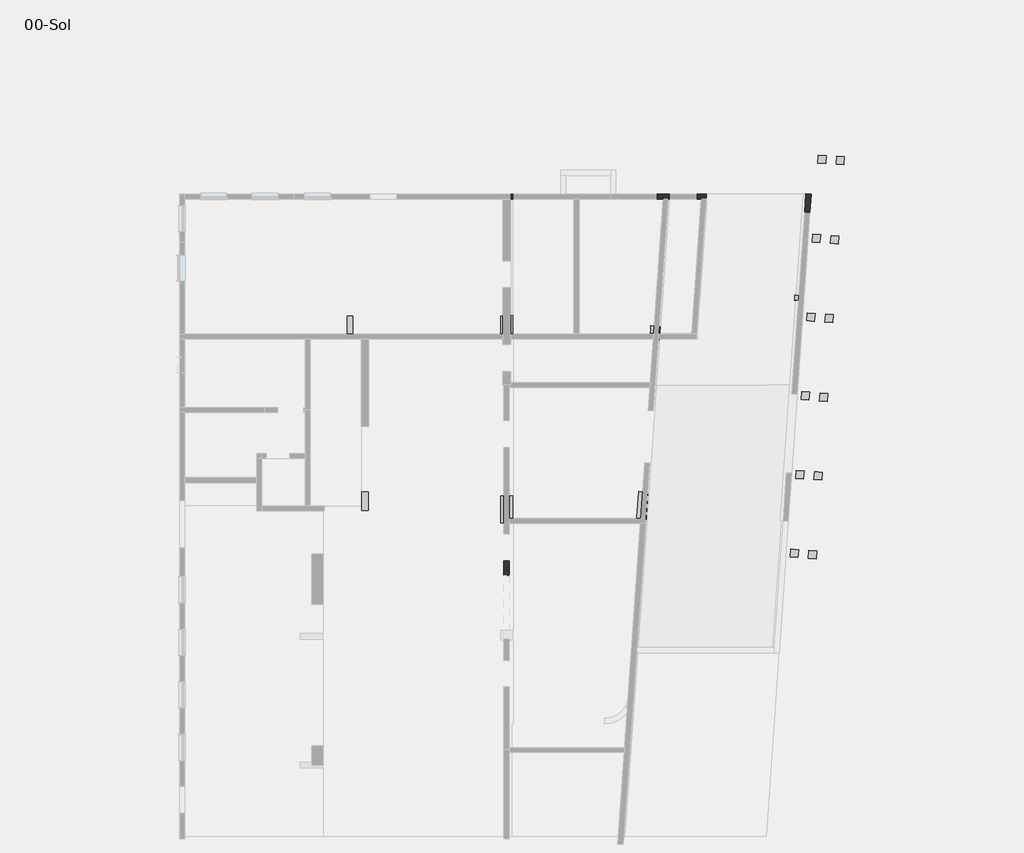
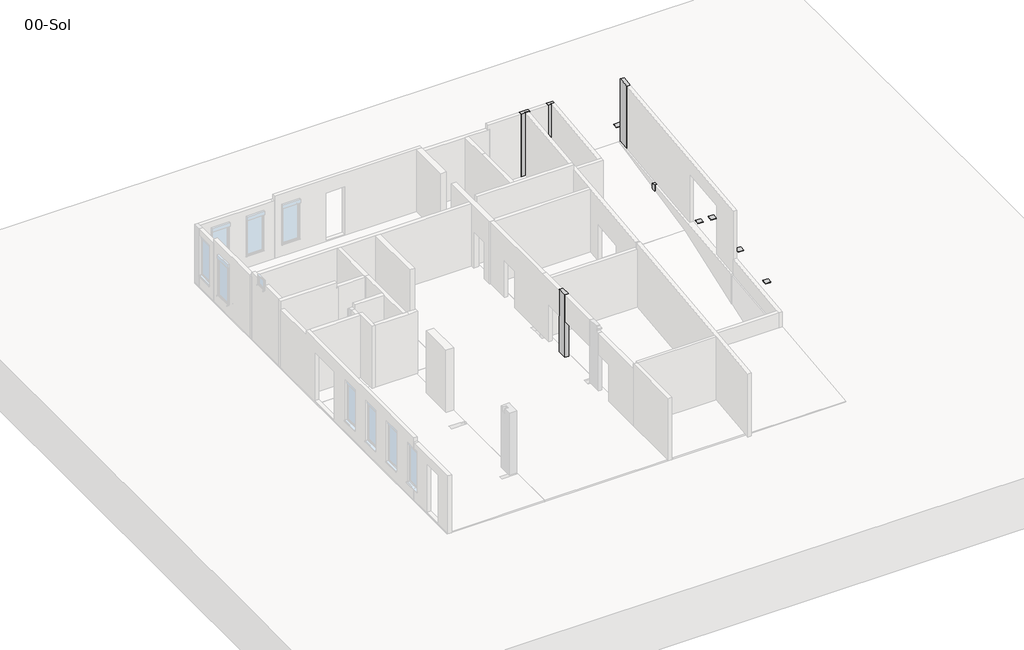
# One storey, part 4 of 4: 14 footings, 12 columns, 12 proxies, 5 slabs.
"""IFC4 building model written with IfcOpenShell, lengths in millimetres."""

from ifc_helpers import new_model, si_unit, frame, origin, place, context, project, spatial, polyline, outline, extrude, faceted_brep, transform, mapped, element, save
from components import generic_models_9ba4c96e

model = new_model("IFC4")

# Units and contexts
model_context = context("Model", 3, world=origin())
ifc_project = project(units=[si_unit("LENGTHUNIT", "METRE", prefix="MILLI")], contexts=[model_context])

# Site, building, storey
site = spatial("IfcSite", under=ifc_project)
building = spatial("IfcBuilding", under=site)
storey = spatial("IfcBuildingStorey", under=building, Name="00-Sol", Elevation=0.0)

# Proxies
placement = place(None, origin())
generic_models_shape = generic_models_9ba4c96e(model_context)
element("IfcBuildingElementProxy", 1, Name="00-Calev1 (00-Sol) : Cale", ObjectType="00-Calev1 (00-Sol) : Cale", at=placement, inside=storey, context=model_context, shape_type="MappedRepresentation", body=[
    mapped(generic_models_shape, transform((18184.4834396, 8271.5033373, 0.0), x_axis=(0.9975640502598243, -0.0697564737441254, 0.0), y_axis=(0.0697564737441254, 0.9975640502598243, 0.0), z_axis=(0.0, 0.0, 1.0))),
])
element("IfcBuildingElementProxy", 2, Name="00-Calev1 (00-Sol) : Cale", ObjectType="00-Calev1 (00-Sol) : Cale", at=placement, inside=storey, context=model_context, shape_type="MappedRepresentation", body=[
    mapped(generic_models_shape, transform((17486.1886044, 8320.332869, 0.0), x_axis=(0.9975640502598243, -0.0697564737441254, 0.0), y_axis=(0.0697564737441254, 0.9975640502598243, 0.0), z_axis=(0.0, 0.0, 1.0))),
])
element("IfcBuildingElementProxy", 3, Name="00-Calev1 (00-Sol) : Cale", ObjectType="00-Calev1 (00-Sol) : Cale", at=placement, inside=storey, context=model_context, shape_type="MappedRepresentation", body=[
    mapped(generic_models_shape, transform((18393.9872419, 11267.5472935, 0.0), x_axis=(0.9975640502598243, -0.0697564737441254, 0.0), y_axis=(0.0697564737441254, 0.9975640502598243, 0.0), z_axis=(0.0, 0.0, 1.0))),
])
element("IfcBuildingElementProxy", 4, Name="00-Calev1 (00-Sol) : Cale", ObjectType="00-Calev1 (00-Sol) : Cale", at=placement, inside=storey, context=model_context, shape_type="MappedRepresentation", body=[
    mapped(generic_models_shape, transform((17695.6924067, 11316.3768251, 0.0), x_axis=(0.9975640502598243, -0.0697564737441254, 0.0), y_axis=(0.0697564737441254, 0.9975640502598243, 0.0), z_axis=(0.0, 0.0, 1.0))),
])
element("IfcBuildingElementProxy", 5, Name="00-Calev1 (00-Sol) : Cale", ObjectType="00-Calev1 (00-Sol) : Cale", at=placement, inside=storey, context=model_context, shape_type="MappedRepresentation", body=[
    mapped(generic_models_shape, transform((18603.6054455, 14265.2272645, 0.0), x_axis=(0.9975640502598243, -0.0697564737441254, 0.0), y_axis=(0.0697564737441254, 0.9975640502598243, 0.0), z_axis=(0.0, 0.0, 1.0))),
])
element("IfcBuildingElementProxy", 6, Name="00-Calev1 (00-Sol) : Cale", ObjectType="00-Calev1 (00-Sol) : Cale", at=placement, inside=storey, context=model_context, shape_type="MappedRepresentation", body=[
    mapped(generic_models_shape, transform((17905.3106103, 14314.0567961, 0.0), x_axis=(0.9975640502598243, -0.0697564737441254, 0.0), y_axis=(0.0697564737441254, 0.9975640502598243, 0.0), z_axis=(0.0, 0.0, 1.0))),
])
element("IfcBuildingElementProxy", 7, Name="00-Calev1 (00-Sol) : Cale", ObjectType="00-Calev1 (00-Sol) : Cale", at=placement, inside=storey, context=model_context, shape_type="MappedRepresentation", body=[
    mapped(generic_models_shape, transform((18813.2236491, 17262.9072355, 0.0), x_axis=(0.9975640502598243, -0.0697564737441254, 0.0), y_axis=(0.0697564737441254, 0.9975640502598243, 0.0), z_axis=(0.0, 0.0, 1.0))),
])
element("IfcBuildingElementProxy", 8, Name="00-Calev1 (00-Sol) : Cale", ObjectType="00-Calev1 (00-Sol) : Cale", at=placement, inside=storey, context=model_context, shape_type="MappedRepresentation", body=[
    mapped(generic_models_shape, transform((18114.9288139, 17311.7367672, 0.0), x_axis=(0.9975640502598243, -0.0697564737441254, 0.0), y_axis=(0.0697564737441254, 0.9975640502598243, 0.0), z_axis=(0.0, 0.0, 1.0))),
])
element("IfcBuildingElementProxy", 9, Name="00-Calev1 (00-Sol) : Cale", ObjectType="00-Calev1 (00-Sol) : Cale", at=placement, inside=storey, context=model_context, shape_type="MappedRepresentation", body=[
    mapped(generic_models_shape, transform((19024.7847434, 20273.9479513, 0.0), x_axis=(0.9975640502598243, -0.0697564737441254, 0.0), y_axis=(0.0697564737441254, 0.9975640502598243, 0.0), z_axis=(0.0, 0.0, 1.0))),
])
element("IfcBuildingElementProxy", 10, Name="00-Calev1 (00-Sol) : Cale", ObjectType="00-Calev1 (00-Sol) : Cale", at=placement, inside=storey, context=model_context, shape_type="MappedRepresentation", body=[
    mapped(generic_models_shape, transform((17974.9796373, 5275.4593812, 0.0), x_axis=(0.9975640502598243, -0.0697564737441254, 0.0), y_axis=(0.0697564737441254, 0.9975640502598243, 0.0), z_axis=(0.0, 0.0, 1.0))),
])
element("IfcBuildingElementProxy", 11, Name="00-Calev1 (00-Sol) : Cale", ObjectType="00-Calev1 (00-Sol) : Cale", at=placement, inside=storey, context=model_context, shape_type="MappedRepresentation", body=[
    mapped(generic_models_shape, transform((17276.6848021, 5324.2889128, 0.0), x_axis=(0.9975640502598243, -0.0697564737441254, 0.0), y_axis=(0.0697564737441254, 0.9975640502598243, 0.0), z_axis=(0.0, 0.0, 1.0))),
])
element("IfcBuildingElementProxy", 12, Name="00-Calev1 (00-Sol) : Cale", ObjectType="00-Calev1 (00-Sol) : Cale", at=placement, inside=storey, context=model_context, shape_type="MappedRepresentation", body=[
    mapped(generic_models_shape, transform((18326.2481455, 20322.7943886, 0.0), x_axis=(0.9975640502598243, -0.0697564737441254, 0.0), y_axis=(0.0697564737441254, 0.9975640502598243, 0.0), z_axis=(0.0, 0.0, 1.0))),
])

# Columns
element("IfcColumn", 13, ObjectType="Poteau béton - Rectangulaire : 200x550 mm", at=placement, inside=storey, context=model_context, shape_type="Brep", body=[
    faceted_brep([(6432.9552204, 5039.8622276, 110.0), (6432.9552204, 4489.8622276, 110.0), (6232.9552204, 4489.8622276, 110.0), (6232.9552204, 5039.8622276, 110.0), (6432.9552204, 5039.8622276, 3810.0), (6432.9552204, 4489.8622276, 3810.0), (6432.9552204, 4489.8622276, 2250.0), (6432.9552204, 5039.8622276, 2250.0), (6432.9552204, 5039.8622276, 3760.0), (6232.9552204, 4489.8622276, 3810.0), (6232.9552204, 4489.8622276, 2250.0), (6232.9552204, 5039.8622276, 3810.0), (6232.9552204, 5039.8622276, 3760.0), (6232.9552204, 5039.8622276, 2250.0)], [[[0, 1, 2, 3]], [[4, 5, 6, 1, 0, 7, 8]], [[5, 9, 10, 2, 1, 6]], [[9, 11, 12, 13, 3, 2, 10]], [[11, 4, 8, 7, 0, 3, 13, 12]], [[4, 11, 9, 5]]]),
])
element("IfcColumn", 14, ObjectType="Poteau béton - Rectangulaire : 20x35", at=placement, inside=storey, context=model_context, shape_type="Brep", body=[
    faceted_brep([(17284.2933084, 15146.837875, -3990.0), (17634.2933084, 15146.837875, -3990.0), (17634.2933084, 14946.837875, -3990.0), (17284.2933084, 14946.837875, -3990.0), (17284.2933084, 15146.837875, -3690.0), (17284.2933084, 15146.837875, -3520.0), (17349.6392468, 15146.837875, -3520.0), (17349.6392468, 15146.837875, -3390.0), (17284.2933084, 15146.837875, -3390.0), (17284.2933084, 15146.837875, -1290.0), (17284.2933084, 15146.837875, -484.4393108), (17349.6392468, 15146.837875, -484.0327524), (17349.6392468, 15146.837875, -253.1197411), (17284.2933084, 15146.837875, -253.5262994), (17284.2933084, 15146.837875, 80.0), (17529.9838196, 15146.837875, 80.0), (17529.9838196, 15146.837875, -3690.0), (17634.2933084, 15146.837875, -3690.0), (17634.2933084, 15139.543845, -3690.0), (17634.2933084, 15139.543845, 80.0), (17634.2933084, 14946.837875, 80.0), (17335.6538844, 14946.837875, 80.0), (17284.2933084, 14946.837875, 80.0), (17284.2933084, 14946.837875, -271.3209933), (17335.6538844, 14946.837875, -271.0014467), (17336.8332423, 14963.7034783, 80.0), (17578.0226065, 14946.837875, 80.0), (17335.6538844, 14946.837875, -3690.0), (17336.8332423, 14963.7034783, -3690.0), (17336.8332423, 14963.7034783, -3520.0), (17335.6538844, 14946.837875, -3520.0), (17578.0226065, 14946.837875, -3690.0), (17336.8332423, 14963.7034783, -269.493518), (17336.8332423, 14963.7034783, -500.4065293), (17336.8332423, 14963.7034783, -3390.0), (17284.2933084, 14946.837875, -3520.0), (17335.6538844, 14946.837875, -3390.0), (17284.2933084, 14946.837875, -3390.0), (17284.2933084, 14946.837875, -3690.0), (17335.6538844, 14946.837875, -501.9144581), (17284.2933084, 14946.837875, -502.2340046), (17284.2933084, 14946.837875, -1290.0)], [[[0, 1, 2, 3]], [[1, 0, 4, 5, 6, 7, 8, 9, 10, 11, 12, 13, 14, 15, 16, 17]], [[2, 1, 17, 18, 19, 20]], [[21, 22, 23, 24]], [[22, 14, 13, 23]], [[14, 22, 21, 25, 26, 20, 19, 15]], [[16, 18, 17]], [[18, 16, 15, 19]], [[27, 28, 29, 30]], [[28, 27, 31]], [[28, 31, 26, 25, 32, 33, 34, 29]], [[6, 5, 35, 30, 29]], [[8, 7, 34, 36, 37]], [[6, 29, 34, 7]], [[3, 2, 20, 26, 31, 27, 30, 35, 38]], [[0, 3, 38, 35, 5, 4]], [[36, 34, 33, 39]], [[33, 11, 10, 40, 39]], [[12, 32, 24, 23, 13]], [[11, 33, 32, 12]], [[37, 36, 39, 40, 41]], [[8, 37, 41, 40, 10, 9]], [[25, 21, 24, 32]]]),
])
element("IfcColumn", 15, ObjectType="Poteau béton - Rectangulaire : 25x90", at=placement, inside=storey, context=model_context, shape_type="Brep", body=[
    faceted_brep([(507.9552204, 14379.8622276, -3690.0), (507.9552204, 13479.8622276, -3690.0), (257.9552204, 13479.8622276, -3690.0), (257.9552204, 14379.8622276, -3690.0), (507.9552204, 14379.8622276, -3520.0), (507.9552204, 14379.8622276, -3390.0), (507.9552204, 14379.8622276, -720.0), (507.9552204, 14379.8622276, -300.0), (507.9552204, 13479.8622276, -300.0), (507.9552204, 13479.8622276, -720.0), (507.9552204, 13479.8622276, -3390.0), (507.9552204, 13479.8622276, -3520.0), (257.9552204, 13479.8622276, -300.0), (257.9552204, 13479.8622276, -720.0), (257.9552204, 13479.8622276, -3390.0), (257.9552204, 13479.8622276, -3520.0), (257.9552204, 14379.8622276, -300.0), (257.9552204, 14379.8622276, -720.0), (257.9552204, 14379.8622276, -3390.0), (257.9552204, 14379.8622276, -3520.0)], [[[0, 1, 2, 3]], [[1, 0, 4, 5, 6, 7, 8, 9, 10, 11]], [[2, 1, 11, 10, 9, 8, 12, 13, 14, 15]], [[3, 2, 15, 14, 13, 12, 16, 17, 18, 19]], [[0, 3, 19, 18, 17, 16, 7, 6, 5, 4]], [[8, 7, 16, 12]]]),
])
element("IfcColumn", 16, ObjectType="Poteau béton - Rectangulaire : 27x75", at=placement, inside=storey, context=model_context, shape_type="Brep", body=[
    faceted_brep([(1082.9552204, 7679.8622276, -3990.0), (1082.9552204, 6929.8622276, -3990.0), (812.9552204, 6929.8622276, -3990.0), (812.9552204, 7679.8622276, -3990.0), (1082.9552204, 6929.8622276, -3520.0), (1082.9552204, 7679.8622276, -3520.0), (812.9552204, 7679.8622276, -3520.0), (812.9552204, 6929.8622276, -3520.0), (1082.9552204, 7679.8622276, -3690.0), (812.9552204, 6929.8622276, -3690.0), (812.9552204, 7679.8622276, -3690.0)], [[[0, 1, 2, 3]], [[4, 5, 6, 7]], [[1, 0, 8, 5, 4]], [[2, 1, 4, 7, 9]], [[3, 2, 9, 7, 6, 10]], [[0, 3, 10, 6, 5, 8]]]),
    faceted_brep([(1082.9552204, 7679.8622276, -150.0), (1082.9552204, 6929.8622276, -150.0), (1082.9552204, 6929.8622276, -190.0), (1082.9552204, 6929.8622276, -3390.0), (1082.9552204, 7679.8622276, -3390.0), (1082.9552204, 7679.8622276, -190.0), (812.9552204, 6929.8622276, -150.0), (812.9552204, 6929.8622276, -190.0), (812.9552204, 6929.8622276, -3390.0), (812.9552204, 7129.8622276, -150.0), (812.9552204, 7679.8622276, -150.0), (812.9552204, 7679.8622276, -190.0), (812.9552204, 7679.8622276, -3390.0)], [[[0, 1, 2, 3, 4, 5]], [[1, 6, 7, 8, 3, 2]], [[7, 6, 9, 10, 11, 12, 8]], [[10, 0, 5, 4, 12, 11]], [[1, 0, 10, 9, 6]], [[4, 3, 8, 12]]]),
])
element("IfcColumn", 17, ObjectType="Poteau béton - Rectangulaire : 35x120", at=placement, inside=storey, context=model_context, shape_type="Brep", body=[
    faceted_brep([(11703.6160138, 7655.1434441, -4290.0), (11619.9082453, 6458.0665838, -4290.0), (11270.7608277, 6482.4813496, -4290.0), (11354.4685962, 7679.5582099, -4290.0), (11703.6160138, 7655.1434441, -3520.0), (11635.4177076, 6679.8622276, -3520.0), (11635.4177076, 6679.8622276, -3390.0), (11703.6160138, 7655.1434441, -3390.0), (11703.6160138, 7655.1434441, -1650.0), (11703.6160138, 7655.1434441, -150.0), (11702.6506396, 7641.3379502, -150.0), (11619.9082453, 6458.0665838, -150.0), (11270.7608277, 6482.4813496, -150.0), (11270.7608277, 6482.4813496, -3390.0), (11420.3954353, 6472.0178785, -3390.0), (11420.3954353, 6472.0178785, -3520.0), (11270.7608277, 6482.4813496, -3520.0), (11353.5032221, 7665.752716, -150.0), (11354.4685962, 7679.5582099, -150.0), (11354.4685962, 7679.5582099, -1650.0), (11354.4685962, 7679.5582099, -3390.0), (11434.929328, 6679.8622276, -3520.0), (11354.4685962, 7679.5582099, -3520.0), (11434.929328, 6679.8622276, -3390.0)], [[[0, 1, 2, 3]], [[1, 0, 4, 5, 6, 7, 8, 9, 10, 11]], [[2, 1, 11, 12, 13, 14, 15, 16]], [[12, 17, 18, 19, 20, 13]], [[18, 9, 8, 7, 20, 19]], [[11, 10, 9, 18, 17, 12]], [[15, 21, 5, 4, 22, 16]], [[6, 23, 14, 13, 20, 7]], [[21, 23, 6, 5]], [[23, 21, 15, 14]], [[3, 2, 16, 22]], [[0, 3, 22, 4]]]),
])
element("IfcColumn", 18, ObjectType="Poteau béton - Rectangulaire : 35x50", at=placement, inside=storey, context=model_context, shape_type="Brep", body=[
    faceted_brep([(12169.0026566, 13962.9716739, -4290.0), (12134.1244197, 13464.1896488, -4290.0), (11784.9770021, 13488.6044146, -4290.0), (11819.855239, 13987.3864397, -4290.0), (11969.3572698, 13968.7983882, -3690.0), (11969.9232764, 13976.8926603, -3690.0), (11969.9232764, 13976.8926603, -3520.0), (11969.3572698, 13968.7983882, -3520.0), (12168.43665, 13954.8774018, -3690.0), (12169.0026566, 13962.9716739, -3690.0), (12168.43665, 13954.8774018, -3520.0), (12135.708138, 13486.837875, -3690.0), (11810.239695, 13486.837875, -3690.0), (11810.239695, 13486.837875, -3520.0), (12135.708138, 13486.837875, -3520.0), (11789.8015255, 13488.267051, -3690.0), (11789.8015255, 13557.5983132, -3690.0), (11789.8015255, 13557.5983132, -3520.0), (11789.8015255, 13488.267051, -3520.0), (12149.6935004, 13686.837875, -3690.0), (11798.838836, 13686.837875, -3690.0), (12149.6935004, 13686.837875, -3520.0), (11819.855239, 13987.3864397, -3520.0), (11798.838836, 13686.837875, -3520.0), (12134.1244197, 13464.1896488, -3520.0), (11784.9770021, 13488.6044146, -3520.0)], [[[0, 1, 2, 3]], [[4, 5, 6, 7]], [[5, 4, 8, 9]], [[8, 4, 7, 10]], [[11, 12, 13, 14]], [[15, 16, 17, 18]], [[16, 15, 12, 11, 19, 20]], [[21, 10, 7, 6, 22, 23]], [[24, 14, 13]], [[3, 2, 25, 17, 16, 20, 23, 22]], [[1, 0, 9, 8, 10, 21, 19, 11, 14, 24]], [[2, 1, 24, 13, 12, 15, 18, 25]], [[0, 3, 22, 6, 5, 9]], [[20, 19, 21, 23]], [[25, 18, 17]]]),
    faceted_brep([(12135.708138, 13486.837875, -150.0), (12134.1244197, 13464.1896488, -150.0), (12134.1244197, 13464.1896488, -3390.0), (12135.708138, 13486.837875, -3390.0), (11810.239695, 13486.837875, -150.0), (11810.239695, 13486.837875, -3390.0)], [[[0, 1, 2, 3]], [[4, 1, 0]], [[1, 4, 5, 2]], [[3, 2, 5]], [[4, 0, 3, 5]]]),
    faceted_brep([(11789.8015255, 13488.267051, -150.0), (11784.9770021, 13488.6044146, -150.0), (11784.9770021, 13488.6044146, -3390.0), (11789.8015255, 13488.267051, -3390.0), (11789.8015255, 13557.5983132, -150.0), (11789.8015255, 13557.5983132, -3390.0)], [[[0, 1, 2, 3]], [[1, 0, 4]], [[3, 2, 5]], [[1, 4, 5, 2]], [[4, 0, 3, 5]]]),
    faceted_brep([(11798.838836, 13686.837875, -150.0), (11812.3364137, 13879.8622276, -150.0), (11819.855239, 13987.3864397, -150.0), (11819.855239, 13987.3864397, -3390.0), (11798.838836, 13686.837875, -3390.0), (11798.838836, 13686.837875, -300.0), (11969.9232764, 13976.8926603, -150.0), (11969.9232764, 13976.8926603, -3390.0), (12149.6935004, 13686.837875, -150.0), (11845.6552204, 13686.837875, -150.0), (11803.6869502, 13686.837875, -150.0), (12149.6935004, 13686.837875, -3390.0), (12168.43665, 13954.8774018, -150.0), (11969.3572698, 13968.7983882, -150.0), (12168.43665, 13954.8774018, -3390.0), (11969.3572698, 13968.7983882, -3390.0)], [[[0, 1, 2, 3, 4, 5]], [[2, 6, 7, 3]], [[8, 9, 10, 0, 5, 4, 11]], [[6, 2, 1, 0, 10, 9, 8, 12, 13]], [[12, 8, 11, 14]], [[6, 13, 15, 7]], [[13, 12, 14, 15]], [[14, 11, 4, 3, 7, 15]]]),
])
element("IfcColumn", 19, ObjectType="Poteau béton - Rectangulaire : 370x200mm", at=placement, inside=storey, context=model_context, shape_type="Brep", body=[
    faceted_brep([(13932.9552204, 18799.8622276, -150.0), (13562.9552204, 18799.8622276, -150.0), (13562.9552204, 18999.8622276, -150.0), (13932.9552204, 18999.8622276, -150.0), (13932.9552204, 18799.8622276, 80.0), (13732.4668408, 18799.8622276, 80.0), (13732.4668408, 18799.8622276, 3780.0), (13562.9552204, 18799.8622276, 3780.0), (13562.9552204, 18799.8622276, 80.0), (13562.9552204, 18999.8622276, 3780.0), (13562.9552204, 18999.8622276, 80.0), (13932.9552204, 18999.8622276, 3780.0), (13932.9552204, 18999.8622276, 3410.0), (13932.9552204, 18853.1458566, 3780.0), (13932.9552204, 18853.1458566, 3410.0), (13932.9552204, 18853.1458566, 80.0), (13737.1502343, 18866.837875, 3780.0), (13737.1502343, 18866.837875, 80.0)], [[[0, 1, 2, 3]], [[1, 0, 4, 5, 6, 7, 8]], [[2, 1, 8, 7, 9, 10]], [[3, 2, 10, 9, 11, 12]], [[0, 3, 12, 11, 13, 14, 15, 4]], [[9, 7, 6, 16, 13, 11]], [[17, 16, 6, 5]], [[17, 5, 4, 15]], [[16, 17, 15, 14, 13]]]),
])
element("IfcColumn", 20, ObjectType="Poteau béton - Rectangulaire : 500x200mm", at=placement, inside=storey, context=model_context, shape_type="SweptSolid", body=[
    extrude(outline(polyline([(6582.9552204, 18999.8622276), (6582.9552204, 18799.8622276), (6482.9552204, 18799.8622276), (6482.9552204, 18999.8622276), (6582.9552204, 18999.8622276)])), frame((0.0, 0.0, 80.0), z_axis=(0.0, 0.0, 1.0), x_axis=(1.0, 0.0, 0.0)), (0.0, 0.0, 1.0), 3430.0),
])
element("IfcColumn", 21, ObjectType="Poteau béton - Rectangulaire : 500x200mm", at=placement, inside=storey, context=model_context, shape_type="SweptSolid", body=[
    extrude(outline(polyline([(12542.9552204, 18799.8622276), (12042.9552204, 18799.8622276), (12042.9552204, 18999.8622276), (12542.9552204, 18999.8622276), (12542.9552204, 18799.8622276)])), frame((0.0, 0.0, 80.0), z_axis=(0.0, 0.0, 1.0), x_axis=(1.0, 0.0, 0.0)), (0.0, 0.0, 1.0), 3700.0),
])
element("IfcColumn", 22, ObjectType="Poteau béton - Rectangulaire : 50x107", at=placement, inside=storey, context=model_context, shape_type="Brep", body=[
    faceted_brep([(6582.9552204, 7529.8622276, -3690.0), (6582.9552204, 6459.8622276, -3690.0), (6082.9552204, 6459.8622276, -3690.0), (6082.9552204, 7529.8622276, -3690.0), (6582.9552204, 6459.8622276, -3520.0), (6582.9552204, 7529.8622276, -3520.0), (6082.9552204, 7529.8622276, -3520.0), (6082.9552204, 6459.8622276, -3520.0)], [[[0, 1, 2, 3]], [[4, 5, 6, 7]], [[1, 0, 5, 4]], [[2, 1, 4, 7]], [[3, 2, 7, 6]], [[0, 3, 6, 5]]]),
    faceted_brep([(6582.9552204, 7529.8622276, -720.0), (6582.9552204, 6979.8622276, -720.0), (6582.9552204, 6459.8622276, -720.0), (6582.9552204, 6459.8622276, -3390.0), (6582.9552204, 7529.8622276, -3390.0), (6582.9552204, 7529.8622276, -1000.0), (6082.9552204, 6459.8622276, -720.0), (6082.9552204, 6459.8622276, -3390.0), (6082.9552204, 6979.8622276, -720.0), (6082.9552204, 7529.8622276, -720.0), (6082.9552204, 7529.8622276, -1000.0), (6082.9552204, 7529.8622276, -3390.0)], [[[0, 1, 2, 3, 4, 5]], [[2, 6, 7, 3]], [[6, 8, 9, 10, 11, 7]], [[9, 0, 5, 4, 11, 10]], [[2, 1, 0, 9, 8, 6]], [[4, 3, 7, 11]]]),
])
element("IfcColumn", 23, ObjectType="Poteau béton - Rectangulaire : 50x90", at=placement, inside=storey, context=model_context, shape_type="Brep", body=[
    faceted_brep([(6582.9552204, 14379.8622276, -3690.0), (6582.9552204, 13479.8622276, -3690.0), (6082.9552204, 13479.8622276, -3690.0), (6082.9552204, 14379.8622276, -3690.0), (6182.9552204, 14379.8622276, -3690.0), (6182.9552204, 14279.8622276, -3690.0), (6482.9552204, 14279.8622276, -3690.0), (6482.9552204, 14379.8622276, -3690.0), (6182.9552204, 14379.8622276, -3520.0), (6182.9552204, 14279.8622276, -3520.0), (6482.9552204, 14279.8622276, -3520.0), (6482.9552204, 14379.8622276, -3520.0), (6582.9552204, 13479.8622276, -3520.0), (6582.9552204, 14379.8622276, -3520.0), (6082.9552204, 14379.8622276, -3520.0), (6082.9552204, 13479.8622276, -3520.0)], [[[0, 1, 2, 3, 4, 5, 6, 7]], [[5, 4, 8, 9]], [[7, 6, 10, 11]], [[6, 5, 9, 10]], [[12, 13, 11, 10, 9, 8, 14, 15]], [[1, 0, 13, 12]], [[2, 1, 12, 15]], [[3, 2, 15, 14]], [[4, 3, 14, 8]], [[0, 7, 11, 13]]]),
    faceted_brep([(6582.9552204, 14379.8622276, -720.0), (6582.9552204, 13579.8622276, -720.0), (6582.9552204, 13479.8622276, -720.0), (6582.9552204, 13479.8622276, -1000.0), (6582.9552204, 13479.8622276, -3390.0), (6582.9552204, 14379.8622276, -3390.0), (6580.6552204, 13479.8622276, -720.0), (6082.9552204, 13479.8622276, -720.0), (6082.9552204, 13479.8622276, -1000.0), (6082.9552204, 13479.8622276, -3390.0), (6082.9552204, 14379.8622276, -720.0), (6082.9552204, 14379.8622276, -3390.0), (6182.9552204, 14379.8622276, -720.0), (6182.9552204, 14379.8622276, -3390.0), (6580.6552204, 14379.8622276, -720.0), (6482.9552204, 14379.8622276, -720.0), (6482.9552204, 14279.8622276, -720.0), (6182.9552204, 14279.8622276, -720.0), (6182.9552204, 14279.8622276, -3390.0), (6482.9552204, 14279.8622276, -3390.0), (6482.9552204, 14379.8622276, -3390.0)], [[[0, 1, 2, 3, 4, 5]], [[2, 6, 7, 8, 9, 4, 3]], [[7, 10, 11, 9, 8]], [[10, 12, 13, 11]], [[2, 1, 0, 14, 15, 16, 17, 12, 10, 7, 6]], [[5, 4, 9, 11, 13, 18, 19, 20]], [[12, 17, 18, 13]], [[16, 15, 20, 19]], [[17, 16, 19, 18]], [[15, 14, 0, 5, 20]]]),
])
element("IfcColumn", 24, ObjectType="Poteau béton - Rectangulaire : 700x200mm", at=placement, inside=storey, context=model_context, shape_type="Brep", body=[
    faceted_brep([(17919.3137407, 18992.8865803, 80.0), (17870.4842091, 18294.5917451, 80.0), (17670.9713991, 18308.5430398, 80.0), (17719.8009307, 19006.837875, 80.0), (17919.3137407, 18992.8865803, 3410.0), (17919.3137407, 18992.8865803, 3780.0), (17870.4842091, 18294.5917451, 3780.0), (17670.9713991, 18308.5430398, 3780.0), (17705.3277835, 18799.8622276, 3780.0), (17719.3131459, 18999.8622276, 3780.0), (17719.8009307, 19006.837875, 3780.0), (17819.5573357, 18999.8622276, 3780.0)], [[[0, 1, 2, 3]], [[1, 0, 4, 5, 6]], [[2, 1, 6, 7]], [[3, 2, 7, 8, 9, 10]], [[0, 3, 10, 11, 5, 4]], [[6, 5, 11, 10, 9, 8, 7]]]),
])

# Footings
element("IfcFooting", 25, ObjectType="SF 100x40ht", at=placement, inside=storey, context=model_context, shape_type="SweptSolid", body=[
    extrude(outline(polyline([(-1227.0447796, 6529.8622276), (-1227.0447796, 7529.8622276), (97.9552204, 7529.8622276), (97.9552204, 6929.8622276), (1797.9552204, 6929.8622276), (1797.9552204, 6529.8622276), (-1227.0447796, 6529.8622276)])), frame((0.0, 0.0, -4090.0), z_axis=(0.0, 0.0, 1.0), x_axis=(1.0, 0.0, 0.0)), (0.0, 0.0, 1.0), 400.0),
])
element("IfcFooting", 26, ObjectType="SF 100x40ht", at=placement, inside=storey, context=model_context, shape_type="Brep", body=[
    faceted_brep([(11433.4615436, 7059.8622276, -4290.0), (11433.4615436, 7059.8622276, -3990.0), (11433.4615436, 6673.8079628, -3990.0), (11433.4615436, 6673.8079628, -4290.0), (7557.9552204, 7059.8622276, -3990.0), (7557.9552204, 6059.8622276, -3990.0), (10990.7586234, 6059.8622276, -3990.0), (11035.3911831, 6701.4979712, -3990.0), (10484.1206659, 7059.8622276, -4290.0), (10484.1206659, 7059.8622276, -4390.0), (7557.9552204, 7059.8622276, -4390.0), (7557.9552204, 6059.8622276, -4390.0), (10414.193854, 6059.8622276, -4390.0), (10414.193854, 6059.8622276, -4290.0), (10990.7586234, 6059.8622276, -4290.0), (11035.3911831, 6701.4979712, -4290.0)], [[[0, 1, 2, 3]], [[1, 4, 5, 6, 7, 2]], [[4, 1, 0, 8, 9, 10]], [[11, 10, 9, 12]], [[5, 11, 12, 13, 14, 6]], [[5, 4, 10, 11]], [[9, 8, 13, 12]], [[15, 7, 6, 14]], [[7, 15, 3, 2]], [[13, 8, 0, 3, 15, 14]]]),
])
element("IfcFooting", 27, ObjectType="SF 130x40ht", at=placement, inside=storey, context=model_context, shape_type="SweptSolid", body=[
    extrude(outline(polyline([(5682.9552204, 18069.8622276), (6982.9552204, 18069.8622276), (6982.9552204, 15724.8622276), (5682.9552204, 15724.8622276), (5682.9552204, 18069.8622276)])), frame((0.0, 0.0, -4090.0), z_axis=(0.0, 0.0, 1.0), x_axis=(1.0, 0.0, 0.0)), (0.0, 0.0, 1.0), 400.0),
])
element("IfcFooting", 28, ObjectType="SF 170x40", at=placement, inside=storey, context=model_context, shape_type="Brep", body=[
    faceted_brep([(1797.9552204, 6929.8622276, -3690.0), (97.9552204, 6929.8622276, -3690.0), (97.9552204, 6929.8622276, -4090.0), (1797.9552204, 6929.8622276, -4090.0), (1797.9552204, 11279.8622276, -3690.0), (97.9552204, 11279.8622276, -3690.0), (97.9552204, 10279.8622276, -3690.0), (97.9552204, 7529.8622276, -3690.0), (97.9552204, 11279.8622276, -4090.0), (97.9552204, 10279.8622276, -4090.0), (97.9552204, 7529.8622276, -4090.0), (1797.9552204, 11279.8622276, -4090.0)], [[[0, 1, 2, 3]], [[0, 4, 5, 6, 7, 1]], [[2, 1, 7, 6, 5, 8, 9, 10]], [[3, 2, 10, 9, 8, 11]], [[0, 3, 11, 4]], [[5, 4, 11, 8]]]),
])
element("IfcFooting", 29, ObjectType="SF 50x40ht", at=placement, inside=storey, context=model_context, shape_type="SweptSolid", body=[
    extrude(outline(polyline([(11620.0327096, 7059.8622276), (15982.189303, 7059.8622276), (15951.8598525, 6626.1308777), (16450.6418776, 6591.2526408), (16413.4834401, 6059.8622276), (11993.1750415, 6059.8622276), (12032.9805899, 6632.1050652), (11620.0327096, 6660.8299627), (11620.0327096, 7059.8622276)])), frame((0.0, 0.0, -4090.0), z_axis=(0.0, 0.0, 1.0), x_axis=(1.0, 0.0, 0.0)), (0.0, 0.0, 1.0), 400.0),
])
element("IfcFooting", 30, ObjectType="SF 50x40ht", at=placement, inside=storey, context=model_context, shape_type="Brep", body=[
    faceted_brep([(13293.6589541, 18069.8622276, -3690.0), (13047.3050928, 14546.837875, -3690.0), (14049.7469908, 14546.837875, -3690.0), (14119.6738028, 15546.837875, -3690.0), (14296.1008522, 18069.8622276, -3690.0), (14296.1008522, 18069.8622276, -4090.0), (14049.7469908, 14546.837875, -4090.0), (14119.6738028, 15546.837875, -4090.0), (13293.6589541, 18069.8622276, -4090.0), (13047.3050928, 14546.837875, -4090.0)], [[[0, 1, 2, 3, 4]], [[5, 4, 3, 2, 6, 7]], [[8, 5, 7, 6, 9]], [[0, 8, 9, 1]], [[0, 4, 5, 8]], [[2, 1, 9, 6]]]),
])
element("IfcFooting", 31, ObjectType="SF 50x40ht", at=placement, inside=storey, context=model_context, shape_type="Brep", body=[
    faceted_brep([(16505.7296411, 14546.837875, -3690.0), (16552.4655571, 15215.1926107, -3690.0), (16575.6564531, 15546.837875, -3690.0), (14119.6738028, 15546.837875, -3690.0), (14049.7469908, 14546.837875, -3690.0), (14119.6738028, 15546.837875, -4090.0), (16575.6564531, 15546.837875, -4090.0), (14049.7469908, 14546.837875, -4090.0), (16552.4655571, 15215.1926107, -4090.0), (16505.7296411, 14546.837875, -4090.0)], [[[0, 1, 2, 3, 4]], [[5, 3, 2, 6]], [[7, 5, 6, 8, 9]], [[9, 0, 4, 7]], [[0, 9, 8, 6, 2, 1]], [[3, 5, 7, 4]]]),
])
element("IfcFooting", 32, ObjectType="SF 50x40ht", at=placement, inside=storey, context=model_context, shape_type="Brep", body=[
    faceted_brep([(11789.8015255, 13086.837875, -3690.0), (11789.8015255, 13107.2010877, -3690.0), (11789.8015255, 14086.837875, -3690.0), (11789.8015255, 14086.837875, -4090.0), (11789.8015255, 13107.2010877, -4090.0), (11789.8015255, 13086.837875, -4090.0), (12081.009034, 13086.837875, -3690.0), (12509.1497217, 13086.837875, -3690.0), (17506.3225836, 13086.837875, -3690.0), (17576.2493955, 14086.837875, -3690.0), (12579.0765336, 14086.837875, -3690.0), (17576.2493955, 14086.837875, -4090.0), (12579.0765336, 14086.837875, -4090.0), (17506.3225836, 13086.837875, -4090.0), (12509.1497217, 13086.837875, -4090.0), (12081.009034, 13086.837875, -4090.0)], [[[0, 1, 2, 3, 4, 5]], [[0, 6, 7, 8, 9, 10, 2, 1]], [[3, 2, 10, 9, 11, 12]], [[5, 4, 3, 12, 11, 13, 14, 15]], [[0, 5, 15, 14, 13, 8, 7, 6]], [[9, 8, 13, 11]]]),
    faceted_brep([(13589.8015255, 13086.837875, -3690.0), (13589.8015255, 14086.837875, -3690.0), (13589.8015255, 14086.837875, -4090.0), (13589.8015255, 13086.837875, -4090.0), (16403.6364957, 13086.837875, -3690.0), (16473.5633076, 14086.837875, -3690.0), (16473.5633076, 14086.837875, -4090.0), (16403.6364957, 13086.837875, -4090.0)], [[[0, 1, 2, 3]], [[0, 4, 5, 1]], [[2, 1, 5, 6]], [[3, 2, 6, 7]], [[0, 3, 7, 4]], [[5, 4, 7, 6]]]),
])
element("IfcFooting", 33, ObjectType="SF 50x40ht", at=placement, inside=storey, context=model_context, shape_type="SweptSolid", body=[
    extrude(outline(polyline([(12507.0664038, 13057.0450414), (12081.009034, 13086.837875), (12509.1497217, 13086.837875), (12507.0664038, 13057.0450414)])), frame((0.0, 0.0, -4090.0), z_axis=(0.0, 0.0, 1.0), x_axis=(1.0, 0.0, 0.0)), (0.0, 0.0, 1.0), 400.0),
    extrude(outline(polyline([(11509.5023535, 13126.8015152), (11855.1548304, 18069.8622276), (12857.5967285, 18069.8622276), (12579.0765336, 14086.837875), (11789.8015255, 14086.837875), (11789.8015255, 13107.2010877), (11509.5023535, 13126.8015152)])), frame((0.0, 0.0, -4090.0), z_axis=(0.0, 0.0, 1.0), x_axis=(1.0, 0.0, 0.0)), (0.0, 0.0, 1.0), 400.0),
])
element("IfcFooting", 34, ObjectType="SF 70x40ht", at=placement, inside=storey, context=model_context, shape_type="Brep", body=[
    faceted_brep([(11035.3911831, 6701.4979712, -3690.0), (11620.0327096, 6660.8299627, -3690.0), (12032.9805899, 6632.1050652, -3690.0), (12032.9805899, 6632.1050652, -4090.0), (12032.9805899, 6632.1050652, -4290.0), (11035.3911831, 6701.4979712, -4290.0), (11035.3911831, 6701.4979712, -3990.0), (11559.5911659, -173.3207637, -3690.0), (11993.1750415, 6059.8622276, -3690.0), (10562.0017591, -103.9278577, -3690.0), (11559.5911659, -173.3207637, -4390.0), (11970.3584149, 5731.851392, -4390.0), (11970.3584149, 5731.851392, -4290.0), (10562.0017591, -103.9278577, -4390.0), (10972.7942983, 5801.6078704, -4390.0), (10990.7586234, 6059.8622276, -4290.0), (10972.7942983, 5801.6078704, -4290.0)], [[[0, 1, 2, 3, 4, 5, 6]], [[7, 8, 2, 1, 0, 9]], [[2, 8, 7, 10, 11, 12, 4, 3]], [[10, 13, 14, 11]], [[9, 0, 6, 5, 15, 16, 14, 13]], [[7, 9, 13, 10]], [[4, 12, 16, 15, 5]], [[12, 11, 14, 16]]]),
])
element("IfcFooting", 35, ObjectType="SF3 85 x 40 cm", at=placement, inside=storey, context=model_context, shape_type="Brep", body=[
    faceted_brep([(-6107.0447796, 18069.8622276, -3690.0), (-5127.0447796, 18069.8622276, -3690.0), (5682.9552204, 18069.8622276, -3690.0), (6982.9552204, 18069.8622276, -3690.0), (11855.1548304, 18069.8622276, -3690.0), (12857.5967285, 18069.8622276, -3690.0), (13293.6589541, 18069.8622276, -3690.0), (14296.1008522, 18069.8622276, -3690.0), (16752.0835025, 18069.8622276, -3690.0), (17854.7695904, 18069.8622276, -3690.0), (17919.8015255, 18999.8622276, -3690.0), (-6107.0447796, 18999.8622276, -3690.0), (-6107.0447796, 18999.8622276, -4090.0), (17919.8015255, 18999.8622276, -4090.0), (-6107.0447796, 18069.8622276, -4090.0), (17854.7695904, 18069.8622276, -4090.0), (16752.0835025, 18069.8622276, -4090.0), (14296.1008522, 18069.8622276, -4090.0), (13293.6589541, 18069.8622276, -4090.0), (12857.5967285, 18069.8622276, -4090.0), (11855.1548304, 18069.8622276, -4090.0), (6982.9552204, 18069.8622276, -4090.0), (5682.9552204, 18069.8622276, -4090.0), (548.2393357, 18069.8622276, -4090.0), (248.2393357, 18069.8622276, -4090.0), (-5127.0447796, 18069.8622276, -4090.0)], [[[0, 1, 2, 3, 4, 5, 6, 7, 8, 9, 10, 11]], [[12, 11, 10, 13]], [[14, 12, 13, 15, 16, 17, 18, 19, 20, 21, 22, 23, 24, 25]], [[0, 14, 25, 24, 23, 22, 21, 20, 19, 18, 17, 16, 15, 9, 8, 7, 6, 5, 4, 3, 2, 1]], [[0, 11, 12, 14]], [[10, 9, 15, 13]]]),
])
element("IfcFooting", 36, ObjectType="SF5 100 x 40 cm", at=placement, inside=storey, context=model_context, shape_type="Brep", body=[
    faceted_brep([(17649.7860123, 15138.4604896, -3690.0), (16552.4655571, 15215.1926107, -3690.0), (16552.4655571, 15215.1926107, -4090.0), (17649.7860123, 15138.4604896, -4090.0), (16752.0835025, 18069.8622276, -3690.0), (16575.6564531, 15546.837875, -3690.0), (17854.7695904, 18069.8622276, -3690.0), (17854.7695904, 18069.8622276, -4090.0), (16752.0835025, 18069.8622276, -4090.0), (16575.6564531, 15546.837875, -4090.0)], [[[0, 1, 2, 3]], [[4, 5, 1, 0, 6]], [[7, 6, 0, 3]], [[8, 7, 3, 2, 9]], [[4, 8, 9, 2, 1, 5]], [[4, 6, 7, 8]]]),
])
element("IfcFooting", 37, ObjectType="SF5 100 x 40 cm", at=placement, inside=storey, context=model_context, shape_type="Brep", body=[
    faceted_brep([(17649.7860123, 15138.4604896, -3690.0), (17649.7860123, 15138.4604896, -4090.0), (16552.4655571, 15215.1926107, -4090.0), (16552.4655571, 15215.1926107, -3690.0), (17049.1803078, 6549.3987566, -4090.0), (17049.1803078, 6549.3987566, -3690.0), (16450.6418776, 6591.2526408, -3690.0), (15951.8598525, 6626.1308777, -3690.0), (15951.8598525, 6626.1308777, -4090.0), (16450.6418776, 6591.2526408, -4090.0), (16505.7296411, 14546.837875, -3690.0), (15982.189303, 7059.8622276, -3690.0), (15982.189303, 7059.8622276, -4090.0), (16505.7296411, 14546.837875, -4090.0)], [[[0, 1, 2, 3]], [[4, 5, 6, 7, 8, 9]], [[5, 0, 3, 10, 11, 7, 6]], [[1, 0, 5, 4]], [[2, 1, 4, 9, 8, 12, 13]], [[3, 2, 13, 12, 8, 7, 11, 10]]]),
])
element("IfcFooting", 38, ObjectType="SF6 60 x 40 cm", at=placement, inside=storey, context=model_context, shape_type="Brep", body=[
    faceted_brep([(16702.6850626, 1594.2858962, -4090.0), (16702.6850626, 1594.2858962, -3690.0), (16104.1466325, 1636.1397805, -3690.0), (16104.1466325, 1636.1397805, -4090.0), (17049.1803078, 6549.3987566, -3690.0), (16450.6418776, 6591.2526408, -3690.0), (16413.4834401, 6059.8622276, -3690.0), (17049.1803078, 6549.3987566, -4090.0), (16413.4834401, 6059.8622276, -4090.0), (16450.6418776, 6591.2526408, -4090.0)], [[[0, 1, 2, 3]], [[2, 1, 4, 5, 6]], [[1, 0, 7, 4]], [[0, 3, 8, 9, 7]], [[3, 2, 6, 5, 9, 8]], [[5, 4, 7, 9]]]),
])

# Slabs
element("IfcSlab", 39, ObjectType="Base rectangulaire : 240x190x50ht", at=placement, inside=storey, context=model_context, shape_type="Brep", body=[
    faceted_brep([(1332.9552204, 15124.8622276, -3690.0), (-567.0447796, 15124.8622276, -3690.0), (-567.0447796, 14429.8622276, -3690.0), (-567.0447796, 12729.8622276, -3690.0), (-567.0447796, 12724.8622276, -3690.0), (1332.9552204, 12724.8622276, -3690.0), (1332.9552204, 15124.8622276, -4190.0), (1332.9552204, 12724.8622276, -4190.0), (-567.0447796, 12724.8622276, -4190.0), (-567.0447796, 15124.8622276, -4190.0)], [[[0, 1, 2, 3, 4, 5]], [[6, 7, 8, 9]], [[1, 0, 6, 9]], [[4, 3, 2, 1, 9, 8]], [[5, 4, 8, 7]], [[0, 5, 7, 6]]]),
    faceted_brep([(1332.9552204, 15124.8622276, -3690.0), (-567.0447796, 15124.8622276, -3690.0), (-567.0447796, 14429.8622276, -3690.0), (-567.0447796, 12729.8622276, -3690.0), (-567.0447796, 12724.8622276, -3690.0), (1332.9552204, 12724.8622276, -3690.0), (1332.9552204, 15124.8622276, -4190.0), (1332.9552204, 12724.8622276, -4190.0), (-567.0447796, 12724.8622276, -4190.0), (-567.0447796, 15124.8622276, -4190.0)], [[[0, 1, 2, 3, 4, 5]], [[6, 7, 8, 9]], [[1, 0, 6, 9]], [[4, 3, 2, 1, 9, 8]], [[5, 4, 8, 7]], [[0, 5, 7, 6]]]),
])
element("IfcSlab", 40, ObjectType="Base rectangulaire : 260x200x50ht", at=placement, inside=storey, context=model_context, shape_type="Brep", body=[
    faceted_brep([(12575.4358869, 8295.8891885, -4290.0), (10580.3077864, 8435.4021359, -4290.0), (10484.1206659, 7059.8622276, -4290.0), (10414.193854, 6059.8622276, -4290.0), (10398.9409547, 5841.7356053, -4290.0), (10972.7942983, 5801.6078704, -4290.0), (11970.3584149, 5731.851392, -4290.0), (12394.0690552, 5702.2226578, -4290.0), (12575.4358869, 8295.8891885, -4790.0), (12394.0690552, 5702.2226578, -4790.0), (10398.9409547, 5841.7356053, -4790.0), (10580.3077864, 8435.4021359, -4790.0)], [[[0, 1, 2, 3, 4, 5, 6, 7]], [[8, 9, 10, 11]], [[1, 0, 8, 11]], [[4, 3, 2, 1, 11, 10]], [[7, 6, 5, 4, 10, 9]], [[0, 7, 9, 8]]]),
    faceted_brep([(12575.4358869, 8295.8891885, -4290.0), (10580.3077864, 8435.4021359, -4290.0), (10484.1206659, 7059.8622276, -4290.0), (10414.193854, 6059.8622276, -4290.0), (10398.9409547, 5841.7356053, -4290.0), (10972.7942983, 5801.6078704, -4290.0), (11970.3584149, 5731.851392, -4290.0), (12394.0690552, 5702.2226578, -4290.0), (12575.4358869, 8295.8891885, -4790.0), (12394.0690552, 5702.2226578, -4790.0), (10398.9409547, 5841.7356053, -4790.0), (10580.3077864, 8435.4021359, -4790.0)], [[[0, 1, 2, 3, 4, 5, 6, 7]], [[8, 9, 10, 11]], [[1, 0, 8, 11]], [[4, 3, 2, 1, 11, 10]], [[7, 6, 5, 4, 10, 9]], [[0, 7, 9, 8]]]),
])
element("IfcSlab", 41, ObjectType="Base rectangulaire : 310x245x70ht", at=placement, inside=storey, context=model_context, shape_type="SweptSolid", body=[
    extrude(outline(polyline([(13271.9850969, 15042.378737), (13055.7400282, 11949.9301812), (10661.5863076, 12117.3457182), (10877.8313762, 15209.794274), (13271.9850969, 15042.378737)])), frame((0.0, 0.0, -4990.0), z_axis=(0.0, 0.0, 1.0), x_axis=(1.0, 0.0, 0.0)), (0.0, 0.0, 1.0), 700.0),
    extrude(outline(polyline([(13271.9850969, 15042.378737), (13055.7400282, 11949.9301812), (10661.5863076, 12117.3457182), (10877.8313762, 15209.794274), (13271.9850969, 15042.378737)])), frame((0.0, 0.0, -4990.0), z_axis=(0.0, 0.0, 1.0), x_axis=(1.0, 0.0, 0.0)), (0.0, 0.0, 1.0), 700.0),
])
element("IfcSlab", 42, ObjectType="Base rectangulaire : 355x245x70ht", at=placement, inside=storey, context=model_context, shape_type="Brep", body=[
    faceted_brep([(7557.9552204, 8729.8622276, -3690.0), (5107.9552204, 8729.8622276, -3690.0), (5107.9552204, 5179.8622276, -3690.0), (7557.9552204, 5179.8622276, -3690.0), (7557.9552204, 8729.8622276, -4390.0), (7557.9552204, 7059.8622276, -4390.0), (7557.9552204, 6059.8622276, -4390.0), (7557.9552204, 5179.8622276, -4390.0), (5107.9552204, 5179.8622276, -4390.0), (5107.9552204, 8729.8622276, -4390.0)], [[[0, 1, 2, 3]], [[4, 5, 6, 7, 8, 9]], [[1, 0, 4, 9]], [[2, 1, 9, 8]], [[3, 2, 8, 7]], [[0, 3, 7, 6, 5, 4]]]),
    faceted_brep([(7557.9552204, 8729.8622276, -3690.0), (5107.9552204, 8729.8622276, -3690.0), (5107.9552204, 5179.8622276, -3690.0), (7557.9552204, 5179.8622276, -3690.0), (7557.9552204, 8729.8622276, -4390.0), (7557.9552204, 7059.8622276, -4390.0), (7557.9552204, 6059.8622276, -4390.0), (7557.9552204, 5179.8622276, -4390.0), (5107.9552204, 5179.8622276, -4390.0), (5107.9552204, 8729.8622276, -4390.0)], [[[0, 1, 2, 3]], [[4, 5, 6, 7, 8, 9]], [[1, 0, 4, 9]], [[2, 1, 9, 8]], [[3, 2, 8, 7]], [[0, 3, 7, 6, 5, 4]]]),
])
element("IfcSlab", 43, ObjectType="Base rectangulaire : 360x320x75ht", at=placement, inside=storey, context=model_context, shape_type="Brep", body=[
    faceted_brep([(7932.9552204, 15724.8622276, -3690.0), (6982.9552204, 15724.8622276, -3690.0), (5682.9552204, 15724.8622276, -3690.0), (4732.9552204, 15724.8622276, -3690.0), (4732.9552204, 12124.8622276, -3690.0), (7932.9552204, 12124.8622276, -3690.0), (7932.9552204, 15724.8622276, -4440.0), (7932.9552204, 12124.8622276, -4440.0), (4732.9552204, 12124.8622276, -4440.0), (4732.9552204, 15724.8622276, -4440.0)], [[[0, 1, 2, 3, 4, 5]], [[6, 7, 8, 9]], [[3, 2, 1, 0, 6, 9]], [[4, 3, 9, 8]], [[5, 4, 8, 7]], [[0, 5, 7, 6]]]),
    faceted_brep([(7932.9552204, 15724.8622276, -3690.0), (6982.9552204, 15724.8622276, -3690.0), (5682.9552204, 15724.8622276, -3690.0), (4732.9552204, 15724.8622276, -3690.0), (4732.9552204, 12124.8622276, -3690.0), (7932.9552204, 12124.8622276, -3690.0), (7932.9552204, 15724.8622276, -4440.0), (7932.9552204, 12124.8622276, -4440.0), (4732.9552204, 12124.8622276, -4440.0), (4732.9552204, 15724.8622276, -4440.0)], [[[0, 1, 2, 3, 4, 5]], [[6, 7, 8, 9]], [[3, 2, 1, 0, 6, 9]], [[4, 3, 9, 8]], [[5, 4, 8, 7]], [[0, 5, 7, 6]]]),
])

save(model, "model.ifc")
